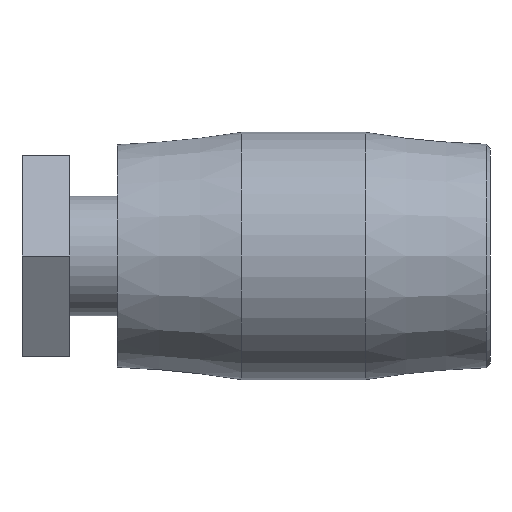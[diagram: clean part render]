
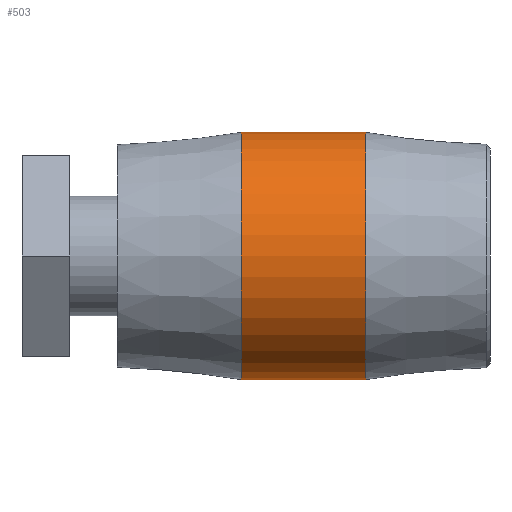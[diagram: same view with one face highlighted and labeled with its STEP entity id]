
A CAD part, front view. The second image highlights one B-rep face of the part: STEP entity #503.
In plain terms, the highlighted cylindrical face has radius 32.5 mm (diameter 65 mm), a full revolution.
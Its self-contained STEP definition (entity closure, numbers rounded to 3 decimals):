
#15=CYLINDRICAL_SURFACE('',#569,32.5);
#47=CIRCLE('',#563,32.5);
#49=CIRCLE('',#567,32.5);
#87=FACE_OUTER_BOUND('',#126,.T.);
#126=EDGE_LOOP('',(#385,#386,#387,#388));
#184=LINE('',#915,#218);
#218=VECTOR('',#675,32.5);
#246=VERTEX_POINT('',#826);
#250=VERTEX_POINT('',#871);
#298=EDGE_CURVE('',#246,#246,#47,.T.);
#302=EDGE_CURVE('',#250,#250,#49,.T.);
#307=EDGE_CURVE('',#246,#250,#184,.T.);
#385=ORIENTED_EDGE('',*,*,#298,.F.);
#386=ORIENTED_EDGE('',*,*,#307,.T.);
#387=ORIENTED_EDGE('',*,*,#302,.T.);
#388=ORIENTED_EDGE('',*,*,#307,.F.);
#503=ADVANCED_FACE('',(#87),#15,.T.);
#563=AXIS2_PLACEMENT_3D('',#828,#660,#661);
#567=AXIS2_PLACEMENT_3D('',#872,#668,#669);
#569=AXIS2_PLACEMENT_3D('',#914,#673,#674);
#660=DIRECTION('center_axis',(1.,0.,0.));
#661=DIRECTION('ref_axis',(0.,0.,-1.));
#668=DIRECTION('center_axis',(1.,0.,0.));
#669=DIRECTION('ref_axis',(0.,0.,-1.));
#673=DIRECTION('center_axis',(1.,0.,0.));
#674=DIRECTION('ref_axis',(0.,1.,0.));
#675=DIRECTION('',(-1.,0.,0.));
#826=CARTESIAN_POINT('',(16.333,-32.5,0.));
#828=CARTESIAN_POINT('Origin',(16.333,0.,0.));
#871=CARTESIAN_POINT('',(-16.333,-32.5,0.));
#872=CARTESIAN_POINT('Origin',(-16.333,0.,0.));
#914=CARTESIAN_POINT('Origin',(0.,0.,0.));
#915=CARTESIAN_POINT('',(0.,-32.5,0.));
